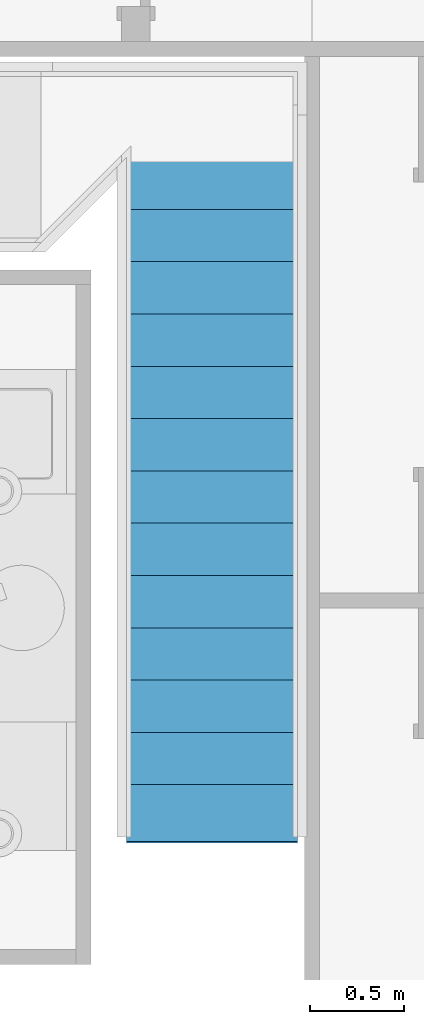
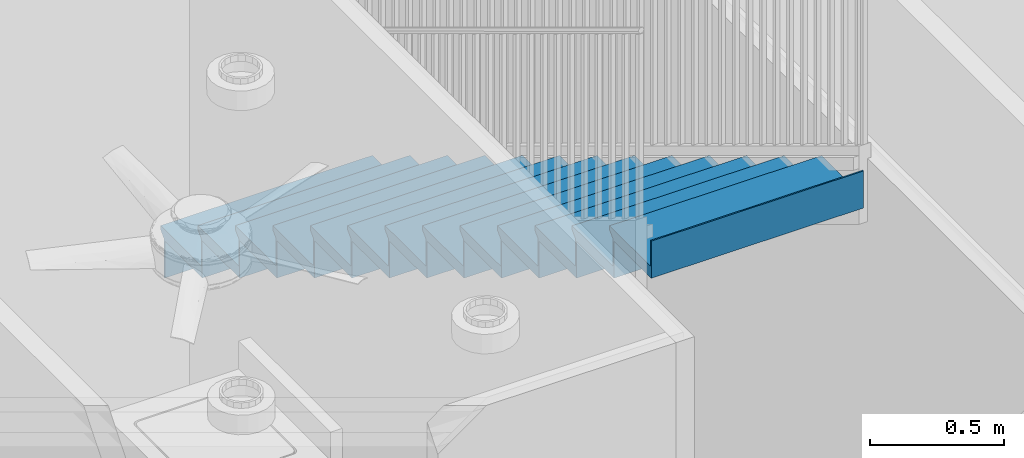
# One storey, part 8 of 28: 1 stair flight, 1 element without a shape of its own.
"""IFC2X3 building model written with IfcOpenShell, lengths in feet."""

import ifcopenshell
import ifcopenshell.guid

model = None  # the IFC model being written
_history = None  # IfcOwnerHistory: only IFC2X3 demands one
_inside = {}  # id of a spatial element -> (the spatial element, [elements in it])
_under = {}  # id of a project, library or spatial element -> (it, [spatial elements below it])
_declared = {}  # id of a project -> (the project, [libraries it declares])
_typed = {}  # id of a type object -> (the type object, [elements of that type])
_made_of = {}  # id of a material, layer set ... -> (it, [elements and type objects made of it])


def new_model(schema):
    """Start an empty IFC model of exactly this schema.

    Asked for "IFC4X3", IfcOpenShell would pick the latest addendum, in which some entities
    have other attributes; the version numbers below select the first issue.
    IFC2X3 requires an IfcOwnerHistory on every rooted entity: one is made here for all.
    """
    global model, _history
    if schema == "IFC4X3":
        model = ifcopenshell.file(schema_version=(4, 3, 0, 0))
    else:
        model = ifcopenshell.file(schema=schema)
    _inside.clear()
    _under.clear()
    _declared.clear()
    _typed.clear()
    _made_of.clear()
    _history = None
    if model.schema == "IFC2X3":
        org = make("IfcOrganization", Name="unknown")
        user = make(
            "IfcPersonAndOrganization",
            ThePerson=make("IfcPerson", FamilyName="unknown"),
            TheOrganization=org,
        )
        app = make(
            "IfcApplication",
            ApplicationDeveloper=org,
            Version="unknown",
            ApplicationFullName="unknown",
            ApplicationIdentifier="unknown",
        )
        _history = make(
            "IfcOwnerHistory",
            OwningUser=user,
            OwningApplication=app,
            ChangeAction="ADDED",
            CreationDate=0,
        )
    return model


def make(cls, **values):
    """One entity of the class cls with the attributes given. An attribute that is None is left unset."""
    return model.create_entity(
        cls, **{name: value for name, value in values.items() if value is not None}
    )


def entity(cls, *values):
    """Any entity or typed value of the class cls, its attributes in the order of the schema. None: left unset."""
    e = model.create_entity(cls)
    for i, value in enumerate(values):
        if value is not None:
            e[i] = value
    return e


def rooted(cls, **values):
    """An entity with a GlobalId (a new one), such as an element, a storey or a relation."""
    return make(cls, GlobalId=ifcopenshell.guid.new(), OwnerHistory=_history, **values)


def si_unit(unit_type, name, prefix=None):
    """IfcSIUnit, for example si_unit("LENGTHUNIT", "METRE", prefix="MILLI")."""
    return make("IfcSIUnit", UnitType=unit_type, Prefix=prefix, Name=name)


def converted_unit(unit_type, name, factor, base, dimensions=None, offset=None):
    """IfcConversionBasedUnit, such as the inch: factor (a typed value) times the base unit."""
    return make(
        "IfcConversionBasedUnit"
        if offset is None
        else "IfcConversionBasedUnitWithOffset",
        ConversionOffset=offset,
        Dimensions=None
        if dimensions is None
        else entity("IfcDimensionalExponents", *dimensions),
        UnitType=unit_type,
        Name=name,
        ConversionFactor=make(
            "IfcMeasureWithUnit", ValueComponent=factor, UnitComponent=base
        ),
    )


def derived_unit(unit_type, elements):
    """IfcDerivedUnit: a product of units, each with its exponent."""
    return make(
        "IfcDerivedUnit",
        Elements=[
            make("IfcDerivedUnitElement", Unit=unit, Exponent=power)
            for unit, power in elements
        ],
        UnitType=unit_type,
    )


def assignment(units):
    """IfcUnitAssignment: the units of a project."""
    return None if units is None else make("IfcUnitAssignment", Units=units)


def point(xyz):
    """IfcCartesianPoint."""
    return None if xyz is None else make("IfcCartesianPoint", Coordinates=xyz)


def direction(xyz):
    """IfcDirection."""
    return None if xyz is None else make("IfcDirection", DirectionRatios=xyz)


def frame(location, z_axis=None, x_axis=None):
    """IfcAxis2Placement3D, a coordinate frame: its origin and axes. An axis left out is left unset."""
    return make(
        "IfcAxis2Placement3D",
        Location=point(location),
        Axis=direction(z_axis),
        RefDirection=direction(x_axis),
    )


def frame_2d(location, x_axis=None):
    """IfcAxis2Placement2D, a coordinate frame in the plane: its origin and x axis."""
    return make(
        "IfcAxis2Placement2D", Location=point(location), RefDirection=direction(x_axis)
    )


def origin():
    """The frame at (0, 0, 0) with its axes left unset."""
    return frame((0.0, 0.0, 0.0))


def origin_2d_with_axis():
    """The frame at (0, 0) in the plane with the x axis (1, 0) written out."""
    return frame_2d((0.0, 0.0), x_axis=(1.0, 0.0))


def place(relative_to, where):
    """IfcLocalPlacement: puts the frame where relative to a parent placement (None: the world)."""
    return make(
        "IfcLocalPlacement", PlacementRelTo=relative_to, RelativePlacement=where
    )


def context(
    kind, dimensions, precision=None, world=None, true_north=None, identifier=None
):
    """IfcGeometricRepresentationContext, for example the 3D "Model" context."""
    return make(
        "IfcGeometricRepresentationContext",
        ContextIdentifier=identifier,
        ContextType=kind,
        CoordinateSpaceDimension=dimensions,
        Precision=precision,
        WorldCoordinateSystem=world,
        TrueNorth=true_north,
    )


def subcontext(parent, identifier, kind, view, scale=None):
    """IfcGeometricRepresentationSubContext, for example "Body" below "Model"."""
    return make(
        "IfcGeometricRepresentationSubContext",
        ContextIdentifier=identifier,
        ContextType=kind,
        ParentContext=parent,
        TargetScale=scale,
        TargetView=view,
    )


def project(units=None, contexts=None):
    """IfcProject with its units and contexts."""
    return rooted(
        "IfcProject",
        Name="project",
        RepresentationContexts=contexts,
        UnitsInContext=assignment(units),
    )


def spatial(cls, under=None, at=None, **own):
    """A site, building, storey or space (cls), placed at a placement, below another one or the project."""
    s = rooted(cls, ObjectPlacement=at, **own)
    if under is not None:
        _under.setdefault(under.id(), (under, []))[1].append(s)
    return s


def polyline(points):
    """IfcPolyline through the points."""
    return make("IfcPolyline", Points=[point(p) for p in points])


def profile(cls, at=None, kind="AREA", **sizes):
    """A parametric profile (cls). Its sizes go by their IFC names, for example OverallWidth=200.0."""
    return make(cls, ProfileType=kind, Position=at, **sizes)


def rectangle(**sizes):
    """IfcRectangleProfileDef."""
    return profile("IfcRectangleProfileDef", **sizes)


def outline(outer, holes=None, kind="AREA"):
    """IfcArbitraryClosedProfileDef: a profile drawn as a closed curve; with holes, ...WithVoids."""
    if holes is None:
        return make("IfcArbitraryClosedProfileDef", ProfileType=kind, OuterCurve=outer)
    return make(
        "IfcArbitraryProfileDefWithVoids",
        ProfileType=kind,
        OuterCurve=outer,
        InnerCurves=holes,
    )


def extrude(swept, where, along, depth):
    """IfcExtrudedAreaSolid: the profile swept, set in the frame where, extruded along a direction by depth."""
    return make(
        "IfcExtrudedAreaSolid",
        SweptArea=swept,
        Position=where,
        ExtrudedDirection=direction(along),
        Depth=depth,
    )


def shape(context_of_items, identifier, shape_type, items):
    """IfcShapeRepresentation: the items that make up one representation, for example the "Body"."""
    return make(
        "IfcShapeRepresentation",
        ContextOfItems=context_of_items,
        RepresentationIdentifier=identifier,
        RepresentationType=shape_type,
        Items=items,
    )


def material(Name=None, Category=None):
    """IfcMaterial."""
    return make("IfcMaterial", Name=Name, Category=Category)


def made_of(thing, what):
    """Note that an element or type object is made of a material, layer set ...; save() writes the relation."""
    if what is not None:
        _made_of.setdefault(what.id(), (what, []))[1].append(thing)
    return thing


def element(
    cls,
    number,
    at=None,
    inside=None,
    cuts=None,
    type_object=None,
    material=None,
    context=None,
    identifier="Body",
    shape_type=None,
    held_by="IfcProductDefinitionShape",
    body=None,
    shapes=None,
    **own,
):
    """One element of the class cls, such as IfcWall. Its Tag is "e" and its number.

    at: its placement. inside: the storey or other place that contains it. cuts: it is an
    opening in that element (IfcRelVoidsElement). A single representation is given by context,
    identifier, shape_type and body (its items); several are given by shapes. held_by: the class
    of the entity that holds the representations. save() writes the other relations.
    """
    e = rooted(cls, Tag="e%d" % number, ObjectPlacement=at, **own)
    if body is not None:
        shapes = [shape(context, identifier, shape_type, body)]
    if shapes is not None:
        e.Representation = make(held_by, Representations=shapes)
    if inside is not None:
        _inside.setdefault(inside.id(), (inside, []))[1].append(e)
    if cuts is not None:
        rooted(
            "IfcRelVoidsElement", RelatingBuildingElement=cuts, RelatedOpeningElement=e
        )
    if type_object is not None:
        _typed.setdefault(type_object.id(), (type_object, []))[1].append(e)
    return made_of(e, material)


def aggregate(whole, parts):
    """IfcRelAggregates: a whole, such as a stair, and the parts it consists of."""
    return rooted("IfcRelAggregates", RelatingObject=whole, RelatedObjects=parts)


def save(model, path):
    """Write the relations noted so far, then the file.

    IfcRelAggregates (storeys below a building ...), IfcRelContainedInSpatialStructure (elements
    in a storey), IfcRelDefinesByType, IfcRelAssociatesMaterial and IfcRelDeclares: one each for
    every whole, place, type object, material and project.
    """
    for whole, parts in _under.values():
        aggregate(whole, parts)
    for where, things in _inside.values():
        rooted(
            "IfcRelContainedInSpatialStructure",
            RelatedElements=things,
            RelatingStructure=where,
        )
    for kind, things in _typed.values():
        rooted("IfcRelDefinesByType", RelatedObjects=things, RelatingType=kind)
    for what, things in _made_of.values():
        rooted("IfcRelAssociatesMaterial", RelatedObjects=things, RelatingMaterial=what)
    for by, libraries in _declared.values():
        rooted("IfcRelDeclares", RelatingContext=by, RelatedDefinitions=libraries)
    model.write(path)


model = new_model("IFC2X3")

# Units and contexts
model_context = context("Model", 3, precision=0.0001, world=origin(), true_north=direction((6.12303176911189e-17, 1.0)))
body_context = subcontext(model_context, "Body", "Model", "MODEL_VIEW")
ifc_project = project(units=[converted_unit("LENGTHUNIT", "FOOT", entity("IfcRatioMeasure", 0.3048), si_unit("LENGTHUNIT", "METRE"), dimensions=[1, 0, 0, 0, 0, 0, 0]), converted_unit("AREAUNIT", "SQUARE FOOT", entity("IfcRatioMeasure", 0.09290304), si_unit("AREAUNIT", "SQUARE_METRE"), dimensions=[2, 0, 0, 0, 0, 0, 0]), converted_unit("VOLUMEUNIT", "CUBIC FOOT", entity("IfcRatioMeasure", 0.028316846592), si_unit("VOLUMEUNIT", "CUBIC_METRE"), dimensions=[3, 0, 0, 0, 0, 0, 0]), converted_unit("PLANEANGLEUNIT", "DEGREE", entity("IfcRatioMeasure", 0.0174532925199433), si_unit("PLANEANGLEUNIT", "RADIAN"), dimensions=[0, 0, 0, 0, 0, 0, 0]), si_unit("MASSUNIT", "GRAM", prefix="KILO"), derived_unit("MASSDENSITYUNIT", [(si_unit("MASSUNIT", "GRAM", prefix="KILO"), 1), (si_unit("LENGTHUNIT", "METRE"), -3)]), si_unit("TIMEUNIT", "SECOND"), si_unit("FREQUENCYUNIT", "HERTZ"), si_unit("THERMODYNAMICTEMPERATUREUNIT", "DEGREE_CELSIUS"), derived_unit("THERMALTRANSMITTANCEUNIT", [(si_unit("MASSUNIT", "GRAM", prefix="KILO"), 1), (si_unit("THERMODYNAMICTEMPERATUREUNIT", "KELVIN"), -1), (si_unit("TIMEUNIT", "SECOND"), -3)]), derived_unit("VOLUMETRICFLOWRATEUNIT", [(si_unit("LENGTHUNIT", "METRE"), 3), (si_unit("TIMEUNIT", "SECOND"), -1)]), si_unit("ELECTRICCURRENTUNIT", "AMPERE"), si_unit("ELECTRICVOLTAGEUNIT", "VOLT"), si_unit("POWERUNIT", "WATT"), si_unit("FORCEUNIT", "NEWTON"), si_unit("ILLUMINANCEUNIT", "LUX"), si_unit("LUMINOUSFLUXUNIT", "LUMEN"), si_unit("LUMINOUSINTENSITYUNIT", "CANDELA"), derived_unit("USERDEFINED", [(si_unit("MASSUNIT", "GRAM", prefix="KILO"), -1), (si_unit("LENGTHUNIT", "METRE"), -2), (si_unit("TIMEUNIT", "SECOND"), 3), (si_unit("LUMINOUSFLUXUNIT", "LUMEN"), 1)]), derived_unit("LINEARVELOCITYUNIT", [(si_unit("LENGTHUNIT", "METRE"), 1), (si_unit("TIMEUNIT", "SECOND"), -1)]), si_unit("PRESSUREUNIT", "PASCAL"), derived_unit("USERDEFINED", [(si_unit("LENGTHUNIT", "METRE"), -2), (si_unit("MASSUNIT", "GRAM", prefix="KILO"), 1), (si_unit("TIMEUNIT", "SECOND"), -2)])], contexts=[model_context])

# Site, building, storey
site_placement = place(None, origin())
site = spatial("IfcSite", under=ifc_project, at=site_placement, Name="表面", CompositionType="ELEMENT")
building_placement = place(site_placement, origin())
building = spatial("IfcBuilding", under=site, at=building_placement, CompositionType="ELEMENT")
storey_placement = place(building_placement, frame((0.0, 0.0, 10.0)))
storey = spatial("IfcBuildingStorey", under=building, at=storey_placement, Name="Level 2", CompositionType="ELEMENT", Elevation=9.99999999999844)

# Stair, stair flight
stair_placement = place(storey_placement, origin())
stair = element("IfcStair", 1, at=stair_placement, inside=storey, Name="楼梯:7\" max riser 11\" tread", ObjectType="楼梯:7\" max riser 11\" tread", ShapeType="NOTDEFINED")
ifc_material = material(Name="Metal - Aluminum")
stair_flight_placement = place(stair_placement, origin())
stair_flight = element("IfcStairFlight", 2, at=stair_flight_placement, material=ifc_material, Name="楼梯:7\" max riser 11\" tread:2", ObjectType="楼梯:7\" max riser 11\" tread", NumberOfRiser=14, NumberOfTreads=13, RiserHeight=0.555555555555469, TreadLength=0.916666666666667, context=body_context, shape_type="SweptSolid", body=[
    extrude(rectangle(XDim=3.0, YDim=0.0208333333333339, at=frame_2d((0.0, -8.88178419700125e-16), x_axis=(1.0, 0.0))), frame((13.9650869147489, 9.44436722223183, 2.05555555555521)), (0.0, 0.0, 1.0), 0.55555555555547),
    extrude(outline(polyline([(-0.0902777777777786, -0.638888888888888), (0.0763888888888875, -0.638888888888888), (0.0763888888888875, 0.277777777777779), (0.0555555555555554, 0.277777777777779), (-0.0277777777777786, 0.361111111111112), (-0.0902777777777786, 0.361111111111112), (-0.0902777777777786, -0.638888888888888)])), frame((12.4650869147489, 9.17700611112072, 2.68749999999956), z_axis=(1.0, 0.0, 0.0), x_axis=(0.0, 0.0, -1.0)), (0.0, 0.0, 1.0), 3.0),
    extrude(rectangle(XDim=3.0, YDim=0.0208333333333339, at=frame_2d((0.0, -8.88178419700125e-16), x_axis=(1.0, 0.0))), frame((13.9650869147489, 8.52770055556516, 2.61111111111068)), (0.0, 0.0, 1.0), 0.55555555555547),
    extrude(outline(polyline([(-0.0902777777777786, -0.638888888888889), (0.0763888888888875, -0.638888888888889), (0.0763888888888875, 0.277777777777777), (0.0555555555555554, 0.277777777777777), (-0.0277777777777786, 0.361111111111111), (-0.0902777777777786, 0.361111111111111), (-0.0902777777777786, -0.638888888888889)])), frame((12.4650869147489, 8.26033944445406, 3.24305555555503), z_axis=(1.0, 0.0, 0.0), x_axis=(0.0, 0.0, -1.0)), (0.0, 0.0, 1.0), 3.0),
    extrude(rectangle(XDim=3.0, YDim=0.0208333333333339, at=frame_2d((0.0, -8.88178419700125e-16), x_axis=(1.0, 0.0))), frame((13.9650869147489, 7.6110338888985, 3.16666666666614)), (0.0, 0.0, 1.0), 0.55555555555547),
    extrude(outline(polyline([(-0.0902777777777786, -0.638888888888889), (0.0763888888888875, -0.638888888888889), (0.0763888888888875, 0.277777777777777), (0.0555555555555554, 0.277777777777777), (-0.0277777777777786, 0.361111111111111), (-0.0902777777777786, 0.361111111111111), (-0.0902777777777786, -0.638888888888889)])), frame((12.4650869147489, 7.34367277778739, 3.7986111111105), z_axis=(1.0, 0.0, 0.0), x_axis=(0.0, 0.0, -1.0)), (0.0, 0.0, 1.0), 3.0),
    extrude(rectangle(XDim=3.0, YDim=0.0208333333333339, at=origin_2d_with_axis()), frame((13.9650869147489, 6.69436722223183, 3.72222222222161)), (0.0, 0.0, 1.0), 0.55555555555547),
    extrude(outline(polyline([(-0.0902777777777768, -0.638888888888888), (0.0763888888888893, -0.638888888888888), (0.0763888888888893, 0.277777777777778), (0.0555555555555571, 0.277777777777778), (-0.0277777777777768, 0.361111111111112), (-0.0902777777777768, 0.361111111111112), (-0.0902777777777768, -0.638888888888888)])), frame((12.4650869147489, 6.42700611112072, 4.35416666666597), z_axis=(1.0, 0.0, 0.0), x_axis=(0.0, 0.0, -1.0)), (0.0, 0.0, 1.0), 3.0),
    extrude(rectangle(XDim=3.0, YDim=0.0208333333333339, at=origin_2d_with_axis()), frame((13.9650869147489, 5.77770055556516, 4.27777777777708)), (0.0, 0.0, 1.0), 0.55555555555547),
    extrude(outline(polyline([(-0.0902777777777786, -0.638888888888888), (0.0763888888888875, -0.638888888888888), (0.0763888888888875, 0.277777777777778), (0.0555555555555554, 0.277777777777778), (-0.0277777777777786, 0.361111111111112), (-0.0902777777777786, 0.361111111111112), (-0.0902777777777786, -0.638888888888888)])), frame((12.4650869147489, 5.51033944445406, 4.90972222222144), z_axis=(1.0, 0.0, 0.0), x_axis=(0.0, 0.0, -1.0)), (0.0, 0.0, 1.0), 3.0),
    extrude(rectangle(XDim=3.0, YDim=0.0208333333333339, at=origin_2d_with_axis()), frame((13.9650869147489, 4.8610338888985, 4.83333333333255)), (0.0, 0.0, 1.0), 0.55555555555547),
    extrude(outline(polyline([(-0.0902777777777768, -0.638888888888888), (0.0763888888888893, -0.638888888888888), (0.0763888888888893, 0.277777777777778), (0.0555555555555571, 0.277777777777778), (-0.0277777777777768, 0.361111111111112), (-0.0902777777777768, 0.361111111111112), (-0.0902777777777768, -0.638888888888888)])), frame((12.4650869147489, 4.59367277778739, 5.46527777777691), z_axis=(1.0, 0.0, 0.0), x_axis=(0.0, 0.0, -1.0)), (0.0, 0.0, 1.0), 3.0),
    extrude(rectangle(XDim=3.0, YDim=0.0208333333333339, at=origin_2d_with_axis()), frame((13.9650869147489, 3.94436722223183, 5.38888888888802)), (0.0, 0.0, 1.0), 0.55555555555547),
    extrude(outline(polyline([(-0.0902777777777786, -0.638888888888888), (0.0763888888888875, -0.638888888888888), (0.0763888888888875, 0.277777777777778), (0.0555555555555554, 0.277777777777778), (-0.0277777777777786, 0.361111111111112), (-0.0902777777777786, 0.361111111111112), (-0.0902777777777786, -0.638888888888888)])), frame((12.4650869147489, 3.67700611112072, 6.02083333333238), z_axis=(1.0, 0.0, 0.0), x_axis=(0.0, 0.0, -1.0)), (0.0, 0.0, 1.0), 3.0),
    extrude(rectangle(XDim=3.0, YDim=0.0208333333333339, at=origin_2d_with_axis()), frame((13.9650869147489, 3.02770055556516, 5.94444444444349)), (0.0, 0.0, 1.0), 0.55555555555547),
    extrude(outline(polyline([(-0.0902777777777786, -0.638888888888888), (0.0763888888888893, -0.638888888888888), (0.0763888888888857, 0.277777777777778), (0.0555555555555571, 0.277777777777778), (-0.0277777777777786, 0.361111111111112), (-0.0902777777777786, 0.361111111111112), (-0.0902777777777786, -0.638888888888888)])), frame((12.4650869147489, 2.76033944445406, 6.57638888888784), z_axis=(1.0, 0.0, 0.0), x_axis=(0.0, 0.0, -1.0)), (0.0, 0.0, 1.0), 3.0),
    extrude(rectangle(XDim=3.0, YDim=0.0208333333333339, at=origin_2d_with_axis()), frame((13.9650869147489, 2.1110338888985, 6.49999999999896)), (0.0, 0.0, 1.0), 0.555555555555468),
    extrude(outline(polyline([(-0.0902777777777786, -0.638888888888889), (0.0763888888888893, -0.638888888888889), (0.0763888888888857, 0.277777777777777), (0.0555555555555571, 0.277777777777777), (-0.0277777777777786, 0.361111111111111), (-0.0902777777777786, 0.361111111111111), (-0.0902777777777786, -0.638888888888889)])), frame((12.4650869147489, 1.84367277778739, 7.13194444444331), z_axis=(1.0, 0.0, 0.0), x_axis=(0.0, 0.0, -1.0)), (0.0, 0.0, 1.0), 3.0),
    extrude(rectangle(XDim=3.0, YDim=0.0208333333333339, at=origin_2d_with_axis()), frame((13.9650869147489, 1.19436722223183, 7.05555555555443)), (0.0, 0.0, 1.0), 0.555555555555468),
    extrude(outline(polyline([(-0.0902777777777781, -0.638888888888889), (0.0763888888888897, -0.638888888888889), (0.0763888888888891, 0.277777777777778), (0.0555555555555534, 0.277777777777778), (-0.0277777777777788, 0.361111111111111), (-0.0902777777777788, 0.361111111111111), (-0.0902777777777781, -0.638888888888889)])), frame((12.4650869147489, 0.927006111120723, 7.68749999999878), z_axis=(1.0, 0.0, 0.0), x_axis=(0.0, 0.0, -1.0)), (0.0, 0.0, 1.0), 3.0),
    extrude(rectangle(XDim=3.0, YDim=0.0208333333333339, at=origin_2d_with_axis()), frame((13.9650869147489, 0.277700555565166, 7.61111111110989)), (0.0, 0.0, 1.0), 0.555555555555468),
    extrude(outline(polyline([(-0.0902777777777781, -0.638888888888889), (0.0763888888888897, -0.638888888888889), (0.0763888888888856, 0.277777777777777), (0.0555555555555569, 0.277777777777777), (-0.0277777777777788, 0.361111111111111), (-0.0902777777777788, 0.361111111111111), (-0.0902777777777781, -0.638888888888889)])), frame((12.4650869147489, 0.0103394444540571, 8.24305555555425), z_axis=(1.0, 0.0, 0.0), x_axis=(0.0, 0.0, -1.0)), (0.0, 0.0, 1.0), 3.0),
    extrude(rectangle(XDim=3.0, YDim=0.0208333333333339, at=origin_2d_with_axis()), frame((13.9650869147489, -0.638966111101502, 8.16666666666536)), (0.0, 0.0, 1.0), 0.555555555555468),
    extrude(outline(polyline([(-0.0902777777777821, -0.638888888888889), (0.0763888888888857, -0.638888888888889), (0.0763888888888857, 0.277777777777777), (0.05555555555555, 0.277777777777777), (-0.0277777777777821, 0.361111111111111), (-0.0902777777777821, 0.361111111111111), (-0.0902777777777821, -0.638888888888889)])), frame((12.4650869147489, -0.906327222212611, 8.79861111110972), z_axis=(1.0, 0.0, 0.0), x_axis=(0.0, 0.0, -1.0)), (0.0, 0.0, 1.0), 3.0),
    extrude(rectangle(XDim=3.0, YDim=0.0208333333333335, at=frame_2d((0.0, -2.22044604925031e-16), x_axis=(1.0, 0.0))), frame((13.9650869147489, -2.47229944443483, 9.2777777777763)), (0.0, 0.0, 1.0), 0.555555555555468),
    extrude(rectangle(XDim=3.0, YDim=0.0208333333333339, at=origin_2d_with_axis()), frame((13.9650869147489, -1.55563277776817, 8.72222222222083)), (0.0, 0.0, 1.0), 0.555555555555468),
    extrude(outline(polyline([(-0.0902777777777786, -0.638888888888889), (0.0763888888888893, -0.638888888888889), (0.0763888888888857, 0.277777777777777), (0.0555555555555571, 0.277777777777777), (-0.0277777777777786, 0.361111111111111), (-0.0902777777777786, 0.361111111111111), (-0.0902777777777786, -0.638888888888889)])), frame((12.4650869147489, -1.82299388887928, 9.35416666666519), z_axis=(1.0, 0.0, 0.0), x_axis=(0.0, 0.0, -1.0)), (0.0, 0.0, 1.0), 3.0),
])
aggregate(stair, [stair_flight])

save(model, "model.ifc")
